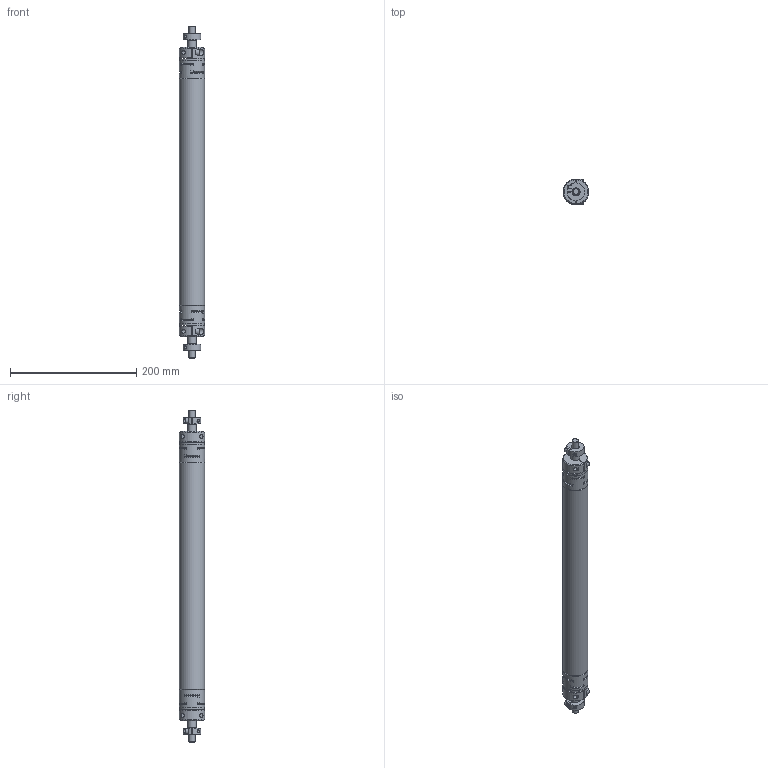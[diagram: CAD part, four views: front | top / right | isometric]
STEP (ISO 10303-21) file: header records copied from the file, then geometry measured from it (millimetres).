
FILE_DESCRIPTION(/* description */ ('Dummy'),/* implementation_level */ '2;1');
FILE_NAME(/* name */ 'D:\InventorWorkspace2019\CAD\_lokale konstruktionen\VerbWelleHLR070\0232.910-0550.stp',/* time_stamp */ '2020-04-14T16:11:41+02:00',/* author */ ('AR64535'),/* organization */ (''),/* preprocessor_version */ 'ST-DEVELOPER v17.2',/* originating_system */ 'Autodesk Inventor 2019',/* authorisation */ '');
FILE_SCHEMA (('AUTOMOTIVE_DESIGN { 1 0 10303 214 3 1 1 }'));
Length unit declared in the file: millimetre
Products named in the file (8): 0241910-XXXX_HLR070; 0241.910-XXXX; ROTEX GS19 ZR3_Klemmnabe D14; ROTEX GS19 ZR3_Rohr; 0232.007-02; 0231.029; 0231.012-01; 130-302319
Assembly tree (11 placements, depth 3):
  0241910-XXXX_HLR070
    0241.910-XXXX
      ROTEX GS19 ZR3_Klemmnabe D14  x2
      ROTEX GS19 ZR3_Rohr
    0232.007-02
      0231.029  x2
      0231.012-01  x2
      130-302319  x2
Bounding box: 40 x 40 x 526 mm (x, y, z)
Volume: 238151.3 mm3; surface area: 131116 mm2
Topology: 9 solids, 9 shells, 430 faces, 1260 edges, 858 vertices
Faces by surface type: cylinder 178, plane 156, cone 92, torus 4
Full cylindrical faces by diameter (mm): 3 x12, 4.134 x2, 5 x2, 5.3 x2, 6 x4, 6.6 x8, 8.5 x2, 10 x6, 14 x4, 18 x4, 22 x2, 34 x1, 39.4 x2, 40 x3
Entity records: 8244 total; most frequent: CARTESIAN_POINT 2097, ORIENTED_EDGE 1268, DIRECTION 1244, EDGE_CURVE 634, AXIS2_PLACEMENT_3D 516, VERTEX_POINT 432, CIRCLE 279, EDGE_LOOP 256
